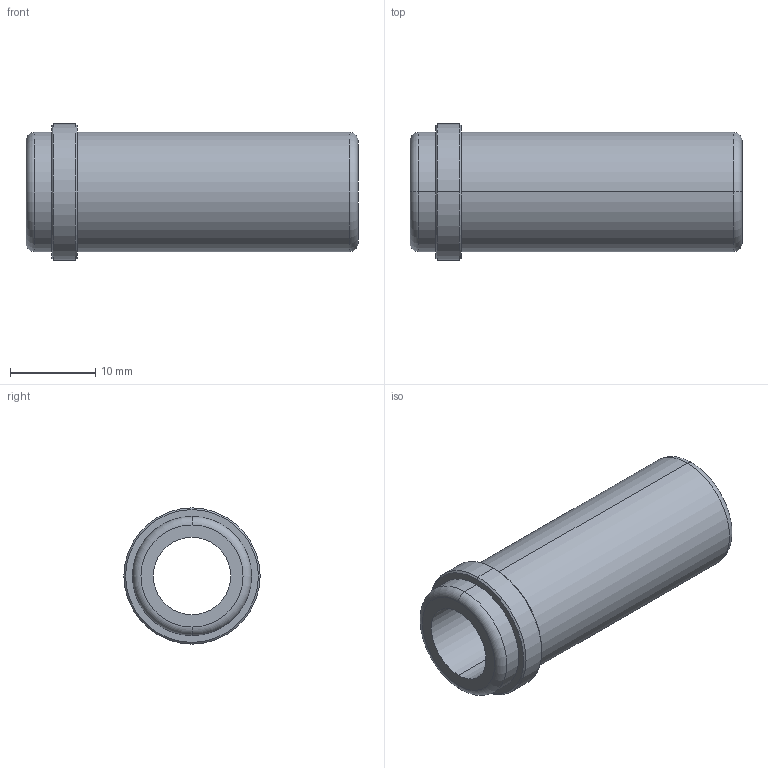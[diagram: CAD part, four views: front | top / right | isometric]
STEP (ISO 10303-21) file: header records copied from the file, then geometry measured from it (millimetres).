
FILE_DESCRIPTION (( 'STEP AP214' ), '1' );
FILE_NAME ('BR10 09x36.STEP', '2020-06-17T10:06:14', ( 'August' ), ( '' ), 'SwSTEP 2.0', 'SolidWorks 2018', '' );
FILE_SCHEMA (( 'AUTOMOTIVE_DESIGN' ));
Length unit declared in the file: millimetre
Products named in the file (1): BR10 09x36
Bounding box: 39 x 16 x 16 mm (x, y, z)
Volume: 3588.2 mm3; surface area: 3070.6 mm2
Topology: 1 solids, 1 shells, 20 faces, 40 edges, 24 vertices
Faces by surface type: cylinder 8, cone 4, torus 4, plane 4
Entity records: 566 total; most frequent: DIRECTION 110, CARTESIAN_POINT 85, ORIENTED_EDGE 80, AXIS2_PLACEMENT_3D 49, EDGE_CURVE 40, CIRCLE 28, VERTEX_POINT 24, EDGE_LOOP 24
